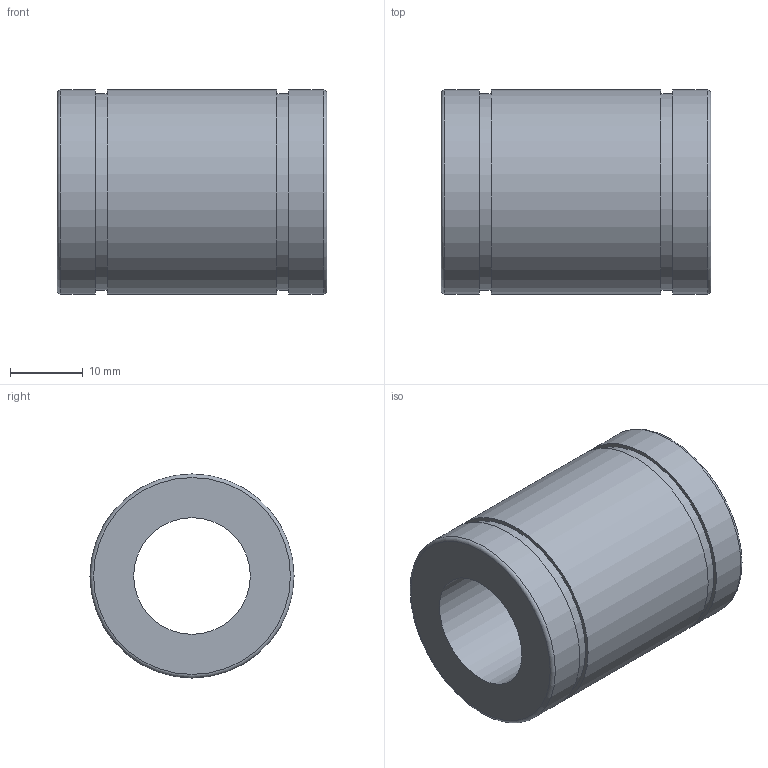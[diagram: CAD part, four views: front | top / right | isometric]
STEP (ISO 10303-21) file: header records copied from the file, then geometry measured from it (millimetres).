
FILE_DESCRIPTION(('STEP AP203'),'1');
FILE_NAME('//192.168.1.1/share/s-4 技術開発/s-4-4_CAD/s-4-4-6_見直し、確認済み/001 修正済み(済)/N(済)/N_TOP/N-16UU.step','2022-03-11T06:30:58',(' '),(' '),'Spatial InterOp 3D',' ',' ');
FILE_SCHEMA(('CONFIG_CONTROL_DESIGN'));
Length unit declared in the file: millimetre
Products named in the file (1): 1
Bounding box: 37 x 28 x 28 mm (x, y, z)
Volume: 15195.9 mm3; surface area: 6068.7 mm2
Topology: 1 solids, 1 shells, 14 faces, 23 edges, 15 vertices
Faces by surface type: cylinder 6, plane 6, torus 2
Full cylindrical faces by diameter (mm): 16 x1, 27 x2, 28 x3
Entity records: 332 total; most frequent: DIRECTION 58, CARTESIAN_POINT 43, AXIS2_PLACEMENT_3D 29, EDGE_LOOP 28, ORIENTED_EDGE 28, FACE_OUTER_BOUND 22, ADVANCED_FACE 14, EDGE_CURVE 14
